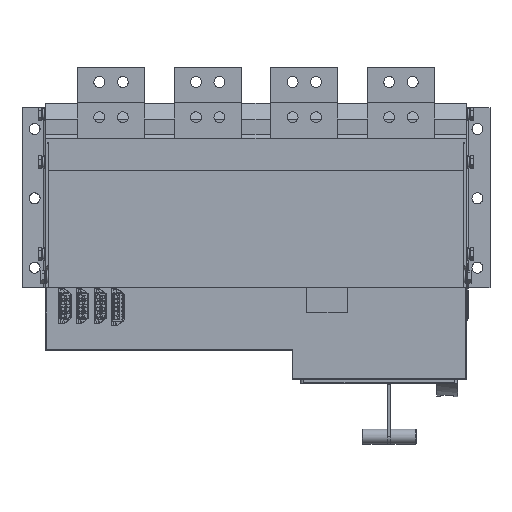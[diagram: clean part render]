
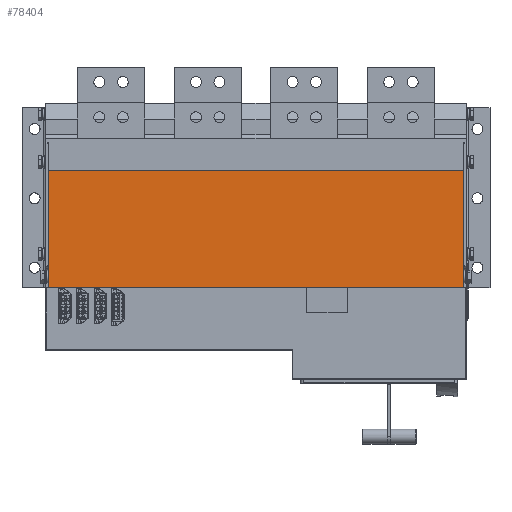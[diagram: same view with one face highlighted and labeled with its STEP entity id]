
A CAD part, top view. The second image highlights one B-rep face of the part: STEP entity #78404.
In plain terms, the highlighted planar face has unit normal (0, 0, 1).
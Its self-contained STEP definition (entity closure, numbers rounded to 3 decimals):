
#4622 = CARTESIAN_POINT ( 'NONE',  ( 33.662, 0., 224.963 ) ) ;
#5982 = DIRECTION ( 'NONE',  ( 0., 0., 1. ) ) ;
#10043 = AXIS2_PLACEMENT_3D ( 'NONE', #4622, #5982, #44683 ) ;
#15879 = DIRECTION ( 'NONE',  ( 1., 0., 0. ) ) ;
#22662 = EDGE_CURVE ( 'NONE', #201672, #186137, #56774, .T. ) ;
#34100 = VECTOR ( 'NONE', #217346, 1000. ) ;
#44683 = DIRECTION ( 'NONE',  ( 1., 0., 0. ) ) ;
#46024 = FACE_OUTER_BOUND ( 'NONE', #243769, .T. ) ;
#55857 = VECTOR ( 'NONE', #15879, 1000. ) ;
#56774 = LINE ( 'NONE', #71406, #168525 ) ;
#56845 = VERTEX_POINT ( 'NONE', #79853 ) ;
#71406 = CARTESIAN_POINT ( 'NONE',  ( 33.662, 0., 224.963 ) ) ;
#75599 = EDGE_CURVE ( 'NONE', #186137, #56845, #209739, .T. ) ;
#78404 = ADVANCED_FACE ( 'NONE', ( #46024 ), #145967, .T. ) ;
#79853 = CARTESIAN_POINT ( 'NONE',  ( 173.662, 0., 224.963 ) ) ;
#101112 = LINE ( 'NONE', #141089, #55857 ) ;
#115503 = DIRECTION ( 'NONE',  ( 0., -1., 0. ) ) ;
#139097 = EDGE_CURVE ( 'NONE', #201672, #218952, #101112, .T. ) ;
#139951 = CARTESIAN_POINT ( 'NONE',  ( 33.662, 494., 224.963 ) ) ;
#141089 = CARTESIAN_POINT ( 'NONE',  ( 0., 494., 224.963 ) ) ;
#145967 = PLANE ( 'NONE',  #10043 ) ;
#151753 = CARTESIAN_POINT ( 'NONE',  ( 33.662, 0., 224.963 ) ) ;
#168525 = VECTOR ( 'NONE', #115503, 1000. ) ;
#181774 = ORIENTED_EDGE ( 'NONE', *, *, #75599, .T. ) ;
#186137 = VERTEX_POINT ( 'NONE', #151753 ) ;
#186274 = CARTESIAN_POINT ( 'NONE',  ( 173.662, 494., 224.963 ) ) ;
#201672 = VERTEX_POINT ( 'NONE', #139951 ) ;
#205860 = DIRECTION ( 'NONE',  ( 1., 0., 0. ) ) ;
#209739 = LINE ( 'NONE', #248294, #225907 ) ;
#209871 = ORIENTED_EDGE ( 'NONE', *, *, #22662, .T. ) ;
#213961 = ORIENTED_EDGE ( 'NONE', *, *, #254928, .F. ) ;
#217346 = DIRECTION ( 'NONE',  ( 0., -1., 0. ) ) ;
#218952 = VERTEX_POINT ( 'NONE', #186274 ) ;
#219070 = ORIENTED_EDGE ( 'NONE', *, *, #139097, .F. ) ;
#225907 = VECTOR ( 'NONE', #205860, 1000. ) ;
#239954 = CARTESIAN_POINT ( 'NONE',  ( 173.662, 0., 224.963 ) ) ;
#243769 = EDGE_LOOP ( 'NONE', ( #213961, #219070, #209871, #181774 ) ) ;
#248294 = CARTESIAN_POINT ( 'NONE',  ( 0., 0., 224.963 ) ) ;
#254928 = EDGE_CURVE ( 'NONE', #218952, #56845, #262485, .T. ) ;
#262485 = LINE ( 'NONE', #239954, #34100 ) ;
